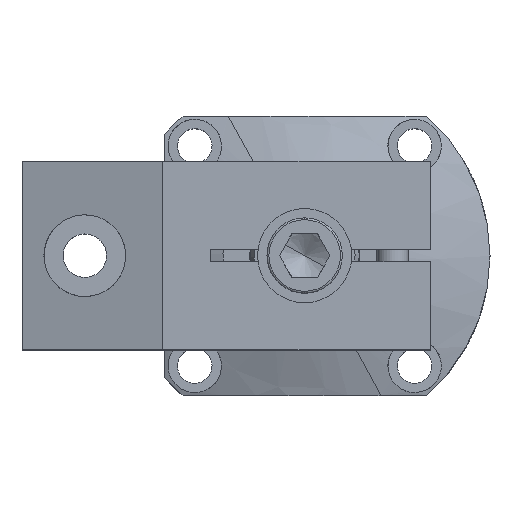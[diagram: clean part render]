
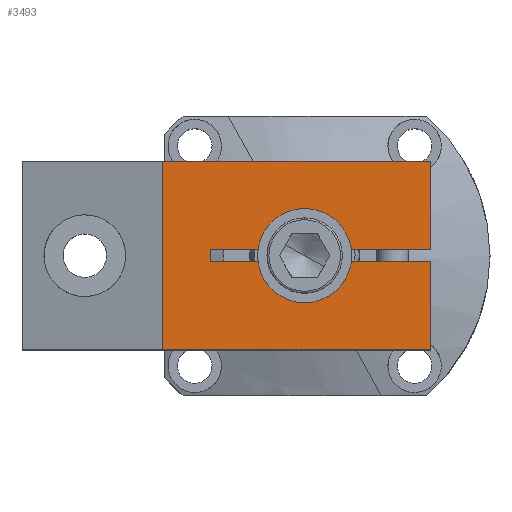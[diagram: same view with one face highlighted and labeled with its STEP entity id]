
A CAD part, top view. The second image highlights one B-rep face of the part: STEP entity #3493.
In plain terms, the highlighted planar face has unit normal (0, 0, 1).
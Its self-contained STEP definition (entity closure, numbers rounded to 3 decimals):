
#3317=CARTESIAN_POINT('Line Origine',(-2.,15.869,40.)) ;
#3321=CARTESIAN_POINT('Vertex',(-2.,31.739,40.)) ;
#3323=CARTESIAN_POINT('Vertex',(-2.,0.,40.)) ;
#3383=CARTESIAN_POINT('Axis2P3D Location',(0.,0.,40.)) ;
#3388=CARTESIAN_POINT('Axis2P3D Location',(0.,40.,40.)) ;
#3392=CARTESIAN_POINT('Vertex',(-7.459,35.925,40.)) ;
#3395=CARTESIAN_POINT('Axis2P3D Location',(0.,40.,40.)) ;
#3399=CARTESIAN_POINT('Vertex',(-2.,48.261,40.)) ;
#3402=CARTESIAN_POINT('Line Origine',(-2.,59.131,40.)) ;
#3406=CARTESIAN_POINT('Vertex',(-2.,70.,40.)) ;
#3409=CARTESIAN_POINT('Line Origine',(0.,70.,40.)) ;
#3413=CARTESIAN_POINT('Vertex',(2.,70.,40.)) ;
#3416=CARTESIAN_POINT('Line Origine',(2.,59.131,40.)) ;
#3420=CARTESIAN_POINT('Vertex',(2.,48.261,40.)) ;
#3423=CARTESIAN_POINT('Axis2P3D Location',(0.,40.,40.)) ;
#3427=CARTESIAN_POINT('Vertex',(7.459,44.075,40.)) ;
#3430=CARTESIAN_POINT('Axis2P3D Location',(0.,40.,40.)) ;
#3434=CARTESIAN_POINT('Vertex',(2.,31.739,40.)) ;
#3437=CARTESIAN_POINT('Line Origine',(2.,15.869,40.)) ;
#3441=CARTESIAN_POINT('Vertex',(2.,0.,40.)) ;
#3444=CARTESIAN_POINT('Line Origine',(16.,0.,40.)) ;
#3448=CARTESIAN_POINT('Vertex',(30.,0.,40.)) ;
#3451=CARTESIAN_POINT('Line Origine',(30.,42.608,40.)) ;
#3455=CARTESIAN_POINT('Vertex',(30.,85.215,40.)) ;
#3458=CARTESIAN_POINT('Line Origine',(0.,85.215,40.)) ;
#3462=CARTESIAN_POINT('Vertex',(-30.,85.215,40.)) ;
#3465=CARTESIAN_POINT('Line Origine',(-30.,42.608,40.)) ;
#3469=CARTESIAN_POINT('Vertex',(-30.,0.,40.)) ;
#3472=CARTESIAN_POINT('Line Origine',(-16.,0.,40.)) ;
#3318=DIRECTION('Vector Direction',(0.,-1.,0.)) ;
#3384=DIRECTION('Axis2P3D Direction',(0.,0.,-1.)) ;
#3385=DIRECTION('Axis2P3D XDirection',(0.,1.,0.)) ;
#3389=DIRECTION('Axis2P3D Direction',(0.,0.,-1.)) ;
#3396=DIRECTION('Axis2P3D Direction',(0.,0.,-1.)) ;
#3403=DIRECTION('Vector Direction',(0.,-1.,0.)) ;
#3410=DIRECTION('Vector Direction',(1.,0.,0.)) ;
#3417=DIRECTION('Vector Direction',(0.,1.,0.)) ;
#3424=DIRECTION('Axis2P3D Direction',(0.,0.,-1.)) ;
#3431=DIRECTION('Axis2P3D Direction',(0.,0.,-1.)) ;
#3438=DIRECTION('Vector Direction',(0.,1.,0.)) ;
#3445=DIRECTION('Vector Direction',(1.,0.,0.)) ;
#3452=DIRECTION('Vector Direction',(0.,1.,0.)) ;
#3459=DIRECTION('Vector Direction',(1.,0.,0.)) ;
#3466=DIRECTION('Vector Direction',(0.,1.,0.)) ;
#3473=DIRECTION('Vector Direction',(1.,0.,0.)) ;
#3386=AXIS2_PLACEMENT_3D('Plane Axis2P3D',#3383,#3384,#3385) ;
#3390=AXIS2_PLACEMENT_3D('Circle Axis2P3D',#3388,#3389,$) ;
#3397=AXIS2_PLACEMENT_3D('Circle Axis2P3D',#3395,#3396,$) ;
#3425=AXIS2_PLACEMENT_3D('Circle Axis2P3D',#3423,#3424,$) ;
#3432=AXIS2_PLACEMENT_3D('Circle Axis2P3D',#3430,#3431,$) ;
#3478=ORIENTED_EDGE('',*,*,#3325,.F.) ;
#3479=ORIENTED_EDGE('',*,*,#3394,.T.) ;
#3480=ORIENTED_EDGE('',*,*,#3401,.T.) ;
#3481=ORIENTED_EDGE('',*,*,#3408,.F.) ;
#3482=ORIENTED_EDGE('',*,*,#3415,.F.) ;
#3483=ORIENTED_EDGE('',*,*,#3422,.F.) ;
#3484=ORIENTED_EDGE('',*,*,#3429,.T.) ;
#3485=ORIENTED_EDGE('',*,*,#3436,.T.) ;
#3486=ORIENTED_EDGE('',*,*,#3443,.F.) ;
#3487=ORIENTED_EDGE('',*,*,#3450,.T.) ;
#3488=ORIENTED_EDGE('',*,*,#3457,.F.) ;
#3489=ORIENTED_EDGE('',*,*,#3464,.F.) ;
#3490=ORIENTED_EDGE('',*,*,#3471,.T.) ;
#3491=ORIENTED_EDGE('',*,*,#3476,.T.) ;
#3319=VECTOR('Line Direction',#3318,1.) ;
#3404=VECTOR('Line Direction',#3403,1.) ;
#3411=VECTOR('Line Direction',#3410,1.) ;
#3418=VECTOR('Line Direction',#3417,1.) ;
#3439=VECTOR('Line Direction',#3438,1.) ;
#3446=VECTOR('Line Direction',#3445,1.) ;
#3453=VECTOR('Line Direction',#3452,1.) ;
#3460=VECTOR('Line Direction',#3459,1.) ;
#3467=VECTOR('Line Direction',#3466,1.) ;
#3474=VECTOR('Line Direction',#3473,1.) ;
#3493=ADVANCED_FACE('PartBody',(#3492),#3387,.F.) ;
#3391=CIRCLE('generated circle',#3390,8.5) ;
#3398=CIRCLE('generated circle',#3397,8.5) ;
#3426=CIRCLE('generated circle',#3425,8.5) ;
#3433=CIRCLE('generated circle',#3432,8.5) ;
#3325=EDGE_CURVE('',#3322,#3324,#3320,.T.) ;
#3394=EDGE_CURVE('',#3322,#3393,#3391,.T.) ;
#3401=EDGE_CURVE('',#3393,#3400,#3398,.T.) ;
#3408=EDGE_CURVE('',#3407,#3400,#3405,.T.) ;
#3415=EDGE_CURVE('',#3414,#3407,#3412,.F.) ;
#3422=EDGE_CURVE('',#3421,#3414,#3419,.T.) ;
#3429=EDGE_CURVE('',#3421,#3428,#3426,.T.) ;
#3436=EDGE_CURVE('',#3428,#3435,#3433,.T.) ;
#3443=EDGE_CURVE('',#3442,#3435,#3440,.T.) ;
#3450=EDGE_CURVE('',#3442,#3449,#3447,.T.) ;
#3457=EDGE_CURVE('',#3456,#3449,#3454,.F.) ;
#3464=EDGE_CURVE('',#3463,#3456,#3461,.T.) ;
#3471=EDGE_CURVE('',#3463,#3470,#3468,.F.) ;
#3476=EDGE_CURVE('',#3470,#3324,#3475,.T.) ;
#3477=EDGE_LOOP('',(#3478,#3479,#3480,#3481,#3482,#3483,#3484,#3485,#3486,#3487,#3488,#3489,#3490,#3491)) ;
#3492=FACE_OUTER_BOUND('',#3477,.T.) ;
#3320=LINE('Line',#3317,#3319) ;
#3405=LINE('Line',#3402,#3404) ;
#3412=LINE('Line',#3409,#3411) ;
#3419=LINE('Line',#3416,#3418) ;
#3440=LINE('Line',#3437,#3439) ;
#3447=LINE('Line',#3444,#3446) ;
#3454=LINE('Line',#3451,#3453) ;
#3461=LINE('Line',#3458,#3460) ;
#3468=LINE('Line',#3465,#3467) ;
#3475=LINE('Line',#3472,#3474) ;
#3387=PLANE('Plane',#3386) ;
#3322=VERTEX_POINT('',#3321) ;
#3324=VERTEX_POINT('',#3323) ;
#3393=VERTEX_POINT('',#3392) ;
#3400=VERTEX_POINT('',#3399) ;
#3407=VERTEX_POINT('',#3406) ;
#3414=VERTEX_POINT('',#3413) ;
#3421=VERTEX_POINT('',#3420) ;
#3428=VERTEX_POINT('',#3427) ;
#3435=VERTEX_POINT('',#3434) ;
#3442=VERTEX_POINT('',#3441) ;
#3449=VERTEX_POINT('',#3448) ;
#3456=VERTEX_POINT('',#3455) ;
#3463=VERTEX_POINT('',#3462) ;
#3470=VERTEX_POINT('',#3469) ;
